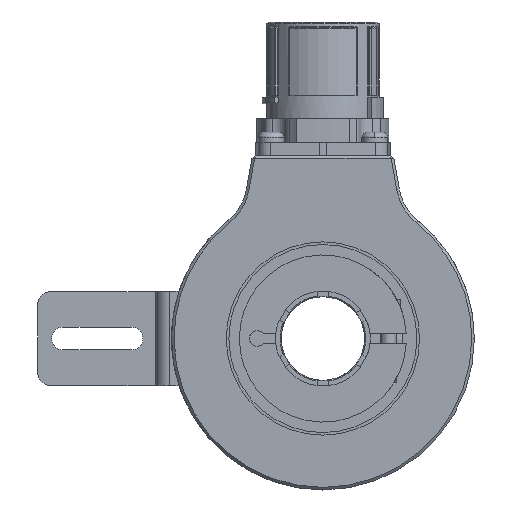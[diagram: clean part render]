
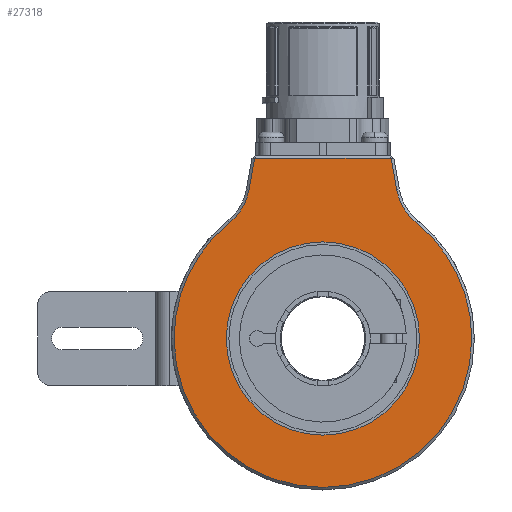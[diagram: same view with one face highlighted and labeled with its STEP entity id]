
A CAD part, left-side view. The second image highlights one B-rep face of the part: STEP entity #27318.
In plain terms, the highlighted planar face has unit normal (-1, 0, 0).
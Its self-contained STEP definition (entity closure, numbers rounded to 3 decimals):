
#354 = CIRCLE ( 'NONE', #16372, 28.5 ) ;
#511 = CARTESIAN_POINT ( 'NONE',  ( -27., 0., 0. ) ) ;
#1038 = DIRECTION ( 'NONE',  ( 0., 1., 0. ) ) ;
#1130 = DIRECTION ( 'NONE',  ( 0., -1., 0. ) ) ;
#1314 = EDGE_LOOP ( 'NONE', ( #24199, #6294, #10022, #30893, #14724, #19530, #20605, #7031 ) ) ;
#1514 = DIRECTION ( 'NONE',  ( 1., 0., 0. ) ) ;
#1559 = VERTEX_POINT ( 'NONE', #8010 ) ;
#2569 = PLANE ( 'NONE',  #29469 ) ;
#3035 = DIRECTION ( 'NONE',  ( -1., 0., 0. ) ) ;
#3900 = CIRCLE ( 'NONE', #5869, 10.5 ) ;
#3958 = VERTEX_POINT ( 'NONE', #29275 ) ;
#4088 = VERTEX_POINT ( 'NONE', #10386 ) ;
#4724 = DIRECTION ( 'NONE',  ( 0., -1., 0. ) ) ;
#4745 = CARTESIAN_POINT ( 'NONE',  ( -27., -17.711, 8.236 ) ) ;
#4955 = VERTEX_POINT ( 'NONE', #13187 ) ;
#5206 = DIRECTION ( 'NONE',  ( -1., 0., 0. ) ) ;
#5592 = EDGE_CURVE ( 'NONE', #26766, #3958, #27773, .T. ) ;
#5869 = AXIS2_PLACEMENT_3D ( 'NONE', #28932, #12219, #4724 ) ;
#6294 = ORIENTED_EDGE ( 'NONE', *, *, #12424, .T. ) ;
#6817 = EDGE_CURVE ( 'NONE', #15380, #4955, #29757, .T. ) ;
#7031 = ORIENTED_EDGE ( 'NONE', *, *, #11866, .T. ) ;
#7544 = DIRECTION ( 'NONE',  ( 0., -1., 0. ) ) ;
#7564 = CARTESIAN_POINT ( 'NONE',  ( -27., -17.883, 22.191 ) ) ;
#8010 = CARTESIAN_POINT ( 'NONE',  ( -27., 28.5, 0. ) ) ;
#8392 = CARTESIAN_POINT ( 'NONE',  ( -27., 24.471, 30.367 ) ) ;
#9299 = CIRCLE ( 'NONE', #13285, 28.5 ) ;
#9744 = ORIENTED_EDGE ( 'NONE', *, *, #14601, .T. ) ;
#10005 = LINE ( 'NONE', #10620, #28498 ) ;
#10022 = ORIENTED_EDGE ( 'NONE', *, *, #27640, .T. ) ;
#10109 = CARTESIAN_POINT ( 'NONE',  ( -27., 0., 0. ) ) ;
#10386 = CARTESIAN_POINT ( 'NONE',  ( -27., 14.131, 28.544 ) ) ;
#10588 = LINE ( 'NONE', #22470, #13398 ) ;
#10620 = CARTESIAN_POINT ( 'NONE',  ( -27., 19.46, -1.682 ) ) ;
#11866 = EDGE_CURVE ( 'NONE', #21366, #26766, #3900, .T. ) ;
#11882 = EDGE_CURVE ( 'NONE', #25950, #21366, #354, .T. ) ;
#11930 = DIRECTION ( 'NONE',  ( -1., 0., 0. ) ) ;
#12106 = CARTESIAN_POINT ( 'NONE',  ( -27., 29., 0. ) ) ;
#12219 = DIRECTION ( 'NONE',  ( 1., 0., 0. ) ) ;
#12424 = EDGE_CURVE ( 'NONE', #3958, #29858, #10588, .T. ) ;
#12452 = EDGE_LOOP ( 'NONE', ( #28380, #9744 ) ) ;
#12461 = DIRECTION ( 'NONE',  ( 1., 0., 0. ) ) ;
#12877 = CARTESIAN_POINT ( 'NONE',  ( -27., -28.5, 0. ) ) ;
#13187 = CARTESIAN_POINT ( 'NONE',  ( -27., -18.5, 0. ) ) ;
#13285 = AXIS2_PLACEMENT_3D ( 'NONE', #20974, #28583, #16726 ) ;
#13398 = VECTOR ( 'NONE', #1038, 1000. ) ;
#13835 = CARTESIAN_POINT ( 'NONE',  ( -27., 18.5, 0. ) ) ;
#14283 = DIRECTION ( 'NONE',  ( 0., 0.174, 0.985 ) ) ;
#14601 = EDGE_CURVE ( 'NONE', #4955, #15380, #30820, .T. ) ;
#14724 = ORIENTED_EDGE ( 'NONE', *, *, #18823, .T. ) ;
#15380 = VERTEX_POINT ( 'NONE', #13835 ) ;
#15918 = CARTESIAN_POINT ( 'NONE',  ( -27., 0., 0. ) ) ;
#16372 = AXIS2_PLACEMENT_3D ( 'NONE', #23961, #11930, #7544 ) ;
#16726 = DIRECTION ( 'NONE',  ( 0., -1., 0. ) ) ;
#16939 = CIRCLE ( 'NONE', #28414, 10.5 ) ;
#17866 = AXIS2_PLACEMENT_3D ( 'NONE', #511, #5206, #1130 ) ;
#18061 = VERTEX_POINT ( 'NONE', #18737 ) ;
#18292 = AXIS2_PLACEMENT_3D ( 'NONE', #10109, #12461, #20115 ) ;
#18737 = CARTESIAN_POINT ( 'NONE',  ( -27., 17.883, 22.191 ) ) ;
#18823 = EDGE_CURVE ( 'NONE', #18061, #1559, #9299, .T. ) ;
#18877 = CIRCLE ( 'NONE', #17866, 28.5 ) ;
#19530 = ORIENTED_EDGE ( 'NONE', *, *, #21490, .T. ) ;
#19798 = DIRECTION ( 'NONE',  ( 0., -1., 0. ) ) ;
#20115 = DIRECTION ( 'NONE',  ( 0., 1., 0. ) ) ;
#20306 = CARTESIAN_POINT ( 'NONE',  ( -27., -14.131, 28.544 ) ) ;
#20605 = ORIENTED_EDGE ( 'NONE', *, *, #11882, .T. ) ;
#20974 = CARTESIAN_POINT ( 'NONE',  ( -27., 0., 0. ) ) ;
#21366 = VERTEX_POINT ( 'NONE', #7564 ) ;
#21490 = EDGE_CURVE ( 'NONE', #1559, #25950, #18877, .T. ) ;
#21643 = DIRECTION ( 'NONE',  ( 0., -1., 0. ) ) ;
#22355 = AXIS2_PLACEMENT_3D ( 'NONE', #15918, #1514, #22946 ) ;
#22470 = CARTESIAN_POINT ( 'NONE',  ( -27., 29., 34.5 ) ) ;
#22946 = DIRECTION ( 'NONE',  ( 0., 1., 0. ) ) ;
#23961 = CARTESIAN_POINT ( 'NONE',  ( -27., 0., 0. ) ) ;
#23990 = FACE_OUTER_BOUND ( 'NONE', #1314, .T. ) ;
#24199 = ORIENTED_EDGE ( 'NONE', *, *, #5592, .T. ) ;
#24453 = FACE_BOUND ( 'NONE', #12452, .T. ) ;
#25578 = EDGE_CURVE ( 'NONE', #4088, #18061, #16939, .T. ) ;
#25950 = VERTEX_POINT ( 'NONE', #12877 ) ;
#26443 = CARTESIAN_POINT ( 'NONE',  ( -27., 13.08, 34.5 ) ) ;
#26766 = VERTEX_POINT ( 'NONE', #20306 ) ;
#27318 = ADVANCED_FACE ( 'NONE', ( #23990, #24453 ), #2569, .T. ) ;
#27428 = DIRECTION ( 'NONE',  ( 1., 0., 0. ) ) ;
#27640 = EDGE_CURVE ( 'NONE', #29858, #4088, #10005, .T. ) ;
#27773 = LINE ( 'NONE', #4745, #28081 ) ;
#28081 = VECTOR ( 'NONE', #14283, 1000. ) ;
#28380 = ORIENTED_EDGE ( 'NONE', *, *, #6817, .T. ) ;
#28414 = AXIS2_PLACEMENT_3D ( 'NONE', #8392, #27428, #19798 ) ;
#28498 = VECTOR ( 'NONE', #29517, 1000. ) ;
#28583 = DIRECTION ( 'NONE',  ( -1., 0., 0. ) ) ;
#28932 = CARTESIAN_POINT ( 'NONE',  ( -27., -24.471, 30.367 ) ) ;
#29275 = CARTESIAN_POINT ( 'NONE',  ( -27., -13.08, 34.5 ) ) ;
#29469 = AXIS2_PLACEMENT_3D ( 'NONE', #12106, #3035, #21643 ) ;
#29517 = DIRECTION ( 'NONE',  ( 0., 0.174, -0.985 ) ) ;
#29757 = CIRCLE ( 'NONE', #18292, 18.5 ) ;
#29858 = VERTEX_POINT ( 'NONE', #26443 ) ;
#30820 = CIRCLE ( 'NONE', #22355, 18.5 ) ;
#30893 = ORIENTED_EDGE ( 'NONE', *, *, #25578, .T. ) ;
